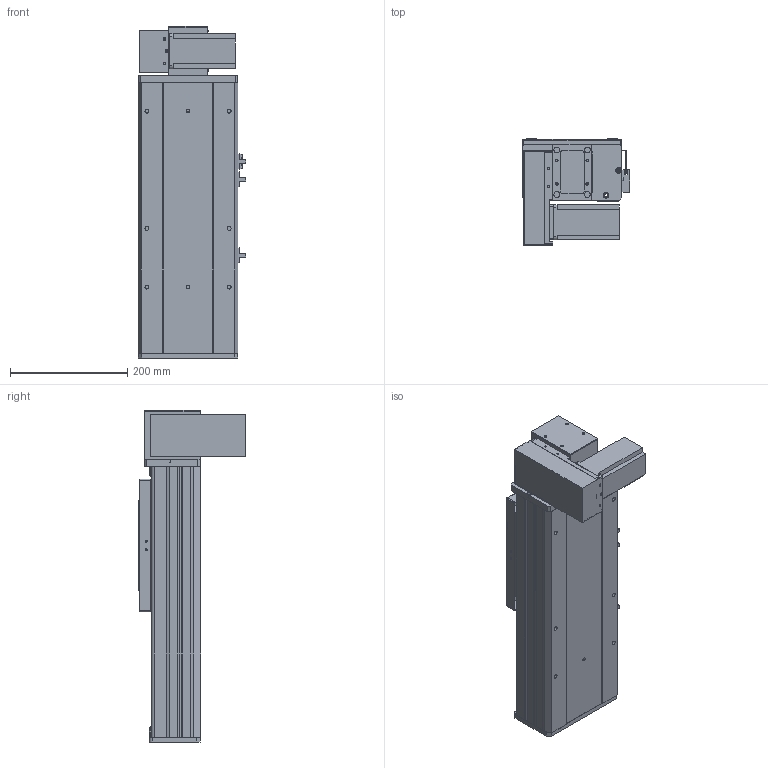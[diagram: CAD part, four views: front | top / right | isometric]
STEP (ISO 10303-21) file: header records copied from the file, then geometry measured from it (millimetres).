
FILE_DESCRIPTION (( 'STEP AP203' ), '1' );
FILE_NAME ('Y170CB-D105-S150-BM-P400W.STEP', '2020-02-20T06:06:21', ( '微软用户' ), ( '微软中国' ), 'SwSTEP 2.0', 'SolidWorks 2017', '' );
FILE_SCHEMA (( 'CONFIG_CONTROL_DESIGN' ));
Length unit declared in the file: millimetre
Products named in the file (18): Y1埴倛裔; 70CB-耜裔啣-; 70C--詩湍揤踡え-; 70CB--耜裔; 70C-雄赽釱-奻-; B-源倛裔啣; 0C--雄赽釱俋欶-170; 0B-萇儂楊擘啣; 17B-耜蚾蟀諉啣----; 70CB-詩湍--; san松下电机400不带刹车----; 00B-俋欶BM--163; Y100-135俋离換覜ん--; 70CB-掛极-; 70B喘謫眊----; Y170CB-陔俋离換覜結え---; --70CB --喘謫眊楊擘啣-; Y170CB-D105-S150-BM-P400W
Assembly tree (21 placements, depth 2):
  Y170CB-D105-S150-BM-P400W
    B-源倛裔啣
    0B-萇儂楊擘啣
    san松下电机400不带刹车----
    70CB-掛极-
    --70CB --喘謫眊楊擘啣-
    70CB-耜裔啣-  x2
    70C--詩湍揤踡え-  x2
    70CB--耜裔
    70C-雄赽釱-奻-
    0C--雄赽釱俋欶-170
    70CB-詩湍--
    Y100-135俋离換覜ん--  x3
    Y170CB-陔俋离換覜結え---
    Y1埴倛裔
    17B-耜蚾蟀諉啣----
    00B-俋欶BM--163
    70B喘謫眊----
Bounding box: 183.5 x 184 x 566 mm (x, y, z)
Volume: 3192503.4 mm3; surface area: 1125309.7 mm2
Topology: 21 solids, 21 shells, 975 faces, 2597 edges, 1722 vertices
Faces by surface type: cylinder 489, plane 462, cone 24
Entity records: 30868 total; most frequent: CARTESIAN_POINT 5616, DIRECTION 5018, ORIENTED_EDGE 4676, EDGE_CURVE 2338, AXIS2_PLACEMENT_3D 1828, VERTEX_POINT 1552, LINE 1362, VECTOR 1362
